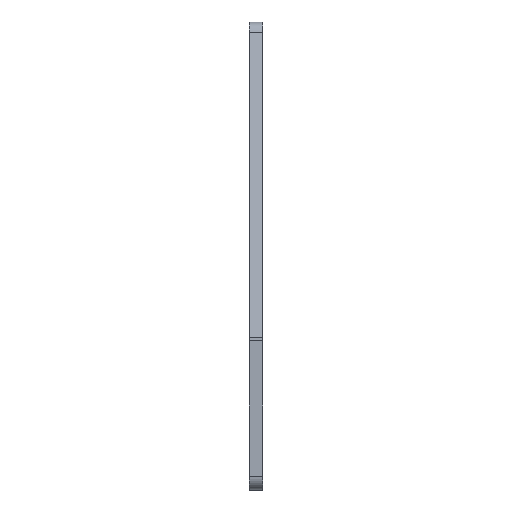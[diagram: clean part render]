
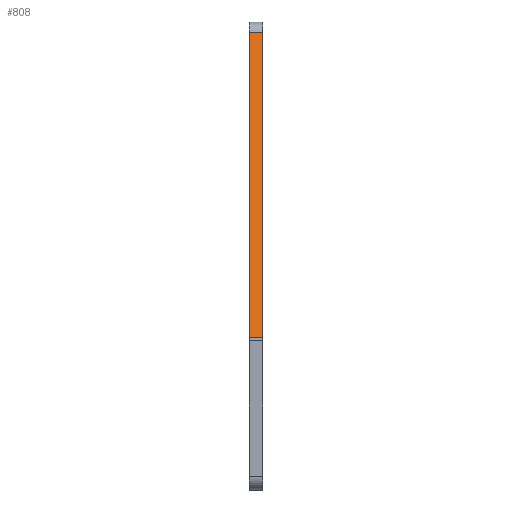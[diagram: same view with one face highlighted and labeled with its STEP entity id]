
A CAD part, left-side view. The second image highlights one B-rep face of the part: STEP entity #808.
In plain terms, the highlighted planar face has unit normal (-0.97, 0, 0.242).
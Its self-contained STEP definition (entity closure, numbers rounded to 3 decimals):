
#20 = VECTOR ( 'NONE', #597, 1000. ) ;
#29 = EDGE_CURVE ( 'NONE', #446, #384, #214, .T. ) ;
#62 = VERTEX_POINT ( 'NONE', #731 ) ;
#88 = VECTOR ( 'NONE', #661, 1000. ) ;
#94 = EDGE_CURVE ( 'NONE', #246, #62, #450, .T. ) ;
#138 = ORIENTED_EDGE ( 'NONE', *, *, #29, .F. ) ;
#148 = FACE_OUTER_BOUND ( 'NONE', #483, .T. ) ;
#179 = EDGE_CURVE ( 'NONE', #246, #384, #473, .T. ) ;
#183 = DIRECTION ( 'NONE',  ( -0.243, 0., -0.97 ) ) ;
#184 = EDGE_CURVE ( 'NONE', #62, #446, #385, .T. ) ;
#201 = VECTOR ( 'NONE', #479, 1000. ) ;
#202 = CARTESIAN_POINT ( 'NONE',  ( -27.925, 2.5, 15.052 ) ) ;
#214 = LINE ( 'NONE', #340, #747 ) ;
#240 = DIRECTION ( 'NONE',  ( -0.97, 0., 0.243 ) ) ;
#246 = VERTEX_POINT ( 'NONE', #433 ) ;
#250 = PLANE ( 'NONE',  #259 ) ;
#259 = AXIS2_PLACEMENT_3D ( 'NONE', #376, #240, #183 ) ;
#272 = CARTESIAN_POINT ( 'NONE',  ( -13.912, 0., 71.106 ) ) ;
#340 = CARTESIAN_POINT ( 'NONE',  ( -27.925, 0., 15.052 ) ) ;
#348 = ORIENTED_EDGE ( 'NONE', *, *, #184, .F. ) ;
#376 = CARTESIAN_POINT ( 'NONE',  ( -13.438, 0., 73. ) ) ;
#384 = VERTEX_POINT ( 'NONE', #202 ) ;
#385 = LINE ( 'NONE', #733, #88 ) ;
#433 = CARTESIAN_POINT ( 'NONE',  ( -13.912, 2.5, 71.106 ) ) ;
#446 = VERTEX_POINT ( 'NONE', #784 ) ;
#450 = LINE ( 'NONE', #272, #201 ) ;
#473 = LINE ( 'NONE', #673, #20 ) ;
#474 = DIRECTION ( 'NONE',  ( 0., 1., 0. ) ) ;
#479 = DIRECTION ( 'NONE',  ( 0., -1., 0. ) ) ;
#483 = EDGE_LOOP ( 'NONE', ( #709, #138, #348, #643 ) ) ;
#597 = DIRECTION ( 'NONE',  ( -0.243, 0., -0.97 ) ) ;
#643 = ORIENTED_EDGE ( 'NONE', *, *, #94, .F. ) ;
#661 = DIRECTION ( 'NONE',  ( -0.243, 0., -0.97 ) ) ;
#673 = CARTESIAN_POINT ( 'NONE',  ( -13.438, 2.5, 73. ) ) ;
#709 = ORIENTED_EDGE ( 'NONE', *, *, #179, .T. ) ;
#731 = CARTESIAN_POINT ( 'NONE',  ( -13.912, 0., 71.106 ) ) ;
#733 = CARTESIAN_POINT ( 'NONE',  ( -13.438, 0., 73. ) ) ;
#747 = VECTOR ( 'NONE', #474, 1000. ) ;
#784 = CARTESIAN_POINT ( 'NONE',  ( -27.925, 0., 15.052 ) ) ;
#808 = ADVANCED_FACE ( 'NONE', ( #148 ), #250, .T. ) ;
